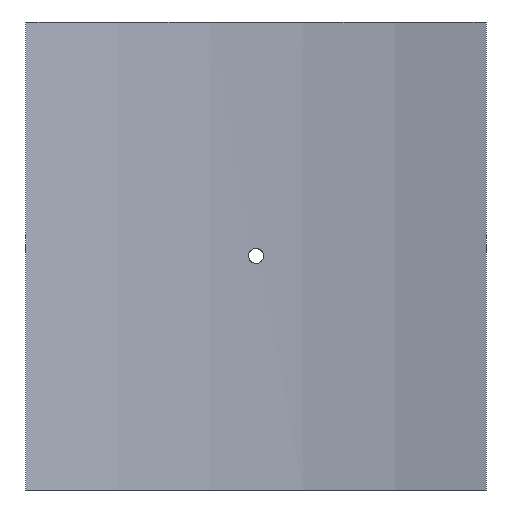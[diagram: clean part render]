
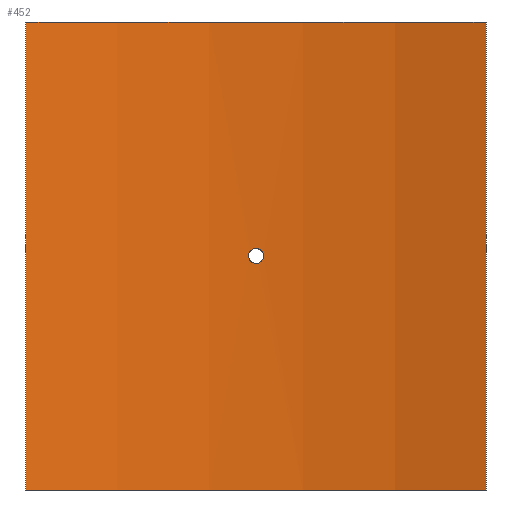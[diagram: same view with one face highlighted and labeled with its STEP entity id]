
A CAD part, front view. The second image highlights one B-rep face of the part: STEP entity #452.
In plain terms, the highlighted cylindrical face has radius 500 mm (diameter 1000 mm), a partial arc.
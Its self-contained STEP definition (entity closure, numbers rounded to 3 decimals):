
#19=B_SPLINE_CURVE_WITH_KNOTS('',3,(#788,#789,#790,#791,#792,#793,#794,
#795,#796,#797,#798,#799,#800,#801,#802,#803,#804,#805,#806,#807,#808,#809,
#810,#811,#812,#813,#814,#815,#816,#817,#818,#819,#820,#821),
 .UNSPECIFIED.,.T.,.F.,(4,2,2,2,2,2,2,2,2,2,2,2,2,2,2,2,4),(0.,0.181,
0.362,0.542,0.723,0.904,
1.085,1.266,1.446,1.627,1.808,
1.989,2.17,2.351,2.531,2.712,
2.893),.UNSPECIFIED.);
#43=LINE('',#1065,#62);
#44=LINE('',#1068,#63);
#62=VECTOR('',#661,10.);
#63=VECTOR('',#664,10.);
#76=CYLINDRICAL_SURFACE('',#530,500.);
#88=FACE_BOUND('',#167,.T.);
#127=FACE_OUTER_BOUND('',#166,.T.);
#166=EDGE_LOOP('',(#405,#406,#407,#408));
#167=EDGE_LOOP('',(#409));
#201=CIRCLE('',#529,500.);
#202=CIRCLE('',#531,500.);
#219=VERTEX_POINT('',#786);
#242=VERTEX_POINT('',#1058);
#243=VERTEX_POINT('',#1060);
#244=VERTEX_POINT('',#1064);
#245=VERTEX_POINT('',#1066);
#267=EDGE_CURVE('',#219,#219,#19,.T.);
#299=EDGE_CURVE('',#242,#243,#201,.T.);
#301=EDGE_CURVE('',#244,#242,#43,.T.);
#302=EDGE_CURVE('',#245,#244,#202,.T.);
#303=EDGE_CURVE('',#245,#243,#44,.T.);
#405=ORIENTED_EDGE('',*,*,#301,.F.);
#406=ORIENTED_EDGE('',*,*,#302,.F.);
#407=ORIENTED_EDGE('',*,*,#303,.T.);
#408=ORIENTED_EDGE('',*,*,#299,.F.);
#409=ORIENTED_EDGE('',*,*,#267,.T.);
#452=ADVANCED_FACE('',(#127,#88),#76,.F.);
#529=AXIS2_PLACEMENT_3D('',#1061,#656,#657);
#530=AXIS2_PLACEMENT_3D('',#1063,#659,#660);
#531=AXIS2_PLACEMENT_3D('',#1067,#662,#663);
#656=DIRECTION('center_axis',(0.,0.,1.));
#657=DIRECTION('ref_axis',(0.295,0.955,0.));
#659=DIRECTION('center_axis',(0.,0.,1.));
#660=DIRECTION('ref_axis',(0.295,0.955,0.));
#661=DIRECTION('',(0.,0.,-1.));
#662=DIRECTION('center_axis',(0.,0.,-1.));
#663=DIRECTION('ref_axis',(0.295,0.955,0.));
#664=DIRECTION('',(0.,0.,-1.));
#786=CARTESIAN_POINT('',(4.8,499.977,0.));
#788=CARTESIAN_POINT('Ctrl Pts',(4.8,499.977,0.));
#789=CARTESIAN_POINT('Ctrl Pts',(4.8,499.977,-0.603));
#790=CARTESIAN_POINT('Ctrl Pts',(4.68,499.978,-1.246));
#791=CARTESIAN_POINT('Ctrl Pts',(4.19,499.983,-2.428));
#792=CARTESIAN_POINT('Ctrl Pts',(3.82,499.986,-2.968));
#793=CARTESIAN_POINT('Ctrl Pts',(2.968,499.991,-3.82));
#794=CARTESIAN_POINT('Ctrl Pts',(2.428,499.994,-4.19));
#795=CARTESIAN_POINT('Ctrl Pts',(1.246,499.999,-4.68));
#796=CARTESIAN_POINT('Ctrl Pts',(0.603,500.,-4.8));
#797=CARTESIAN_POINT('Ctrl Pts',(-0.603,500.,-4.8));
#798=CARTESIAN_POINT('Ctrl Pts',(-1.246,499.999,-4.68));
#799=CARTESIAN_POINT('Ctrl Pts',(-2.428,499.994,-4.19));
#800=CARTESIAN_POINT('Ctrl Pts',(-2.968,499.991,-3.82));
#801=CARTESIAN_POINT('Ctrl Pts',(-3.82,499.986,-2.968));
#802=CARTESIAN_POINT('Ctrl Pts',(-4.19,499.983,-2.428));
#803=CARTESIAN_POINT('Ctrl Pts',(-4.68,499.978,-1.246));
#804=CARTESIAN_POINT('Ctrl Pts',(-4.8,499.977,-0.603));
#805=CARTESIAN_POINT('Ctrl Pts',(-4.8,499.977,0.603));
#806=CARTESIAN_POINT('Ctrl Pts',(-4.68,499.978,1.246));
#807=CARTESIAN_POINT('Ctrl Pts',(-4.19,499.983,2.428));
#808=CARTESIAN_POINT('Ctrl Pts',(-3.82,499.986,2.968));
#809=CARTESIAN_POINT('Ctrl Pts',(-2.968,499.991,3.82));
#810=CARTESIAN_POINT('Ctrl Pts',(-2.428,499.994,4.19));
#811=CARTESIAN_POINT('Ctrl Pts',(-1.246,499.999,4.68));
#812=CARTESIAN_POINT('Ctrl Pts',(-0.603,500.,4.8));
#813=CARTESIAN_POINT('Ctrl Pts',(0.603,500.,4.8));
#814=CARTESIAN_POINT('Ctrl Pts',(1.246,499.999,4.68));
#815=CARTESIAN_POINT('Ctrl Pts',(2.428,499.994,4.19));
#816=CARTESIAN_POINT('Ctrl Pts',(2.968,499.991,3.82));
#817=CARTESIAN_POINT('Ctrl Pts',(3.82,499.986,2.968));
#818=CARTESIAN_POINT('Ctrl Pts',(4.19,499.983,2.428));
#819=CARTESIAN_POINT('Ctrl Pts',(4.68,499.978,1.246));
#820=CARTESIAN_POINT('Ctrl Pts',(4.8,499.977,0.603));
#821=CARTESIAN_POINT('Ctrl Pts',(4.8,499.977,0.));
#1058=CARTESIAN_POINT('',(147.5,477.749,-150.));
#1060=CARTESIAN_POINT('',(-147.5,477.749,-150.));
#1061=CARTESIAN_POINT('Origin',(0.,0.,
-150.));
#1063=CARTESIAN_POINT('Origin',(0.,0.,
0.));
#1064=CARTESIAN_POINT('',(147.5,477.749,150.));
#1065=CARTESIAN_POINT('',(147.5,477.749,0.));
#1066=CARTESIAN_POINT('',(-147.5,477.749,150.));
#1067=CARTESIAN_POINT('Origin',(0.,0.,
150.));
#1068=CARTESIAN_POINT('',(-147.5,477.749,0.));
